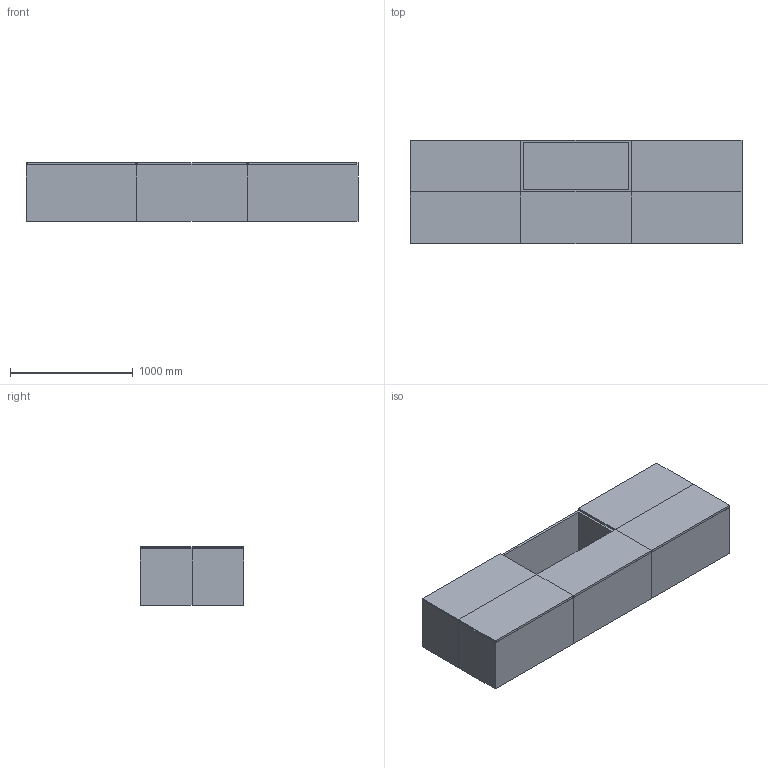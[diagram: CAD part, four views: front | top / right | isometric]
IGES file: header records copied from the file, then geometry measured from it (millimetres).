
Start section: SolidWorks IGES file using NURBS representation for surfaces
Global section: file name: G:\VICCARBE\PRODUCTOS\20-DO IT\04-MODELADOS (PLANOS)\SOLIDWORKS\Composiciones\IGES\VICCARBE_Do_It_Comp05.IGS; native system: SolidWorks 2009; preprocessor: SolidWorks 2009; author: RUBEN; date: 111102.121634; units: millimetre
Bounding box: 2700 x 840 x 479 mm (x, y, z)
Surface area: 22397400 mm2 (no closed solid volume)
Topology: 0 solids, 0 shells, 116 faces, 528 edges, 528 vertices
Faces by surface type: bspline 116
